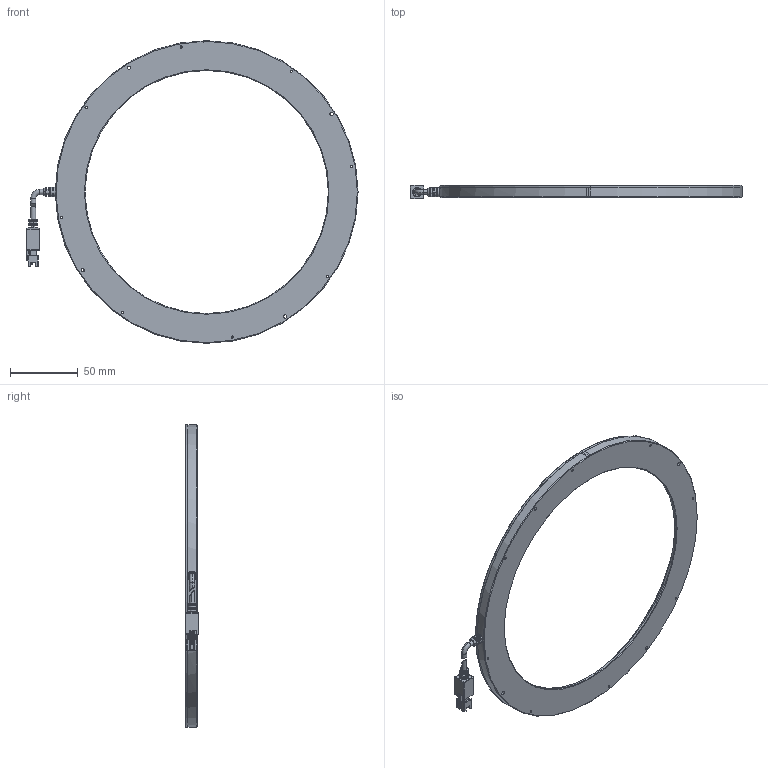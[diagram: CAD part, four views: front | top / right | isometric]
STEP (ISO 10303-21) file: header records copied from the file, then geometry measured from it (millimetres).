
FILE_DESCRIPTION (( 'STEP AP203' ), '1' );
FILE_NAME ('PPX-RI22490-R-V1.STEP', '2021-06-02T06:03:17', ( 'Windows 蚚誧' ), ( 'Microsoft' ), 'SwSTEP 2.0', 'SolidWorks 2016', '' );
FILE_SCHEMA (( 'CONFIG_CONTROL_DESIGN' ));
Length unit declared in the file: millimetre
Products named in the file (5): PPX-RI22490-V1奻裔啣; PPX-RI22490-V1翋极; 两芯电源线 （母端） - 副本; PPX-RI22490PCB1; PPX-RI22490-R-V1
Assembly tree (4 placements, depth 2):
  PPX-RI22490-R-V1
    PPX-RI22490-V1奻裔啣
    PPX-RI22490-V1翋极
    两芯电源线 （母端） - 副本
    PPX-RI22490PCB1
Bounding box: 245.75 x 10 x 224 mm (x, y, z)
Volume: 78043.2 mm3; surface area: 74598.4 mm2
Topology: 5 solids, 5 shells, 393 faces, 1013 edges, 645 vertices
Faces by surface type: plane 175, cylinder 160, cone 32, torus 20, sphere 4, bspline 2
Entity records: 12830 total; most frequent: CARTESIAN_POINT 2328, DIRECTION 2198, ORIENTED_EDGE 2018, EDGE_CURVE 1009, AXIS2_PLACEMENT_3D 813, VERTEX_POINT 645, LINE 572, VECTOR 572
